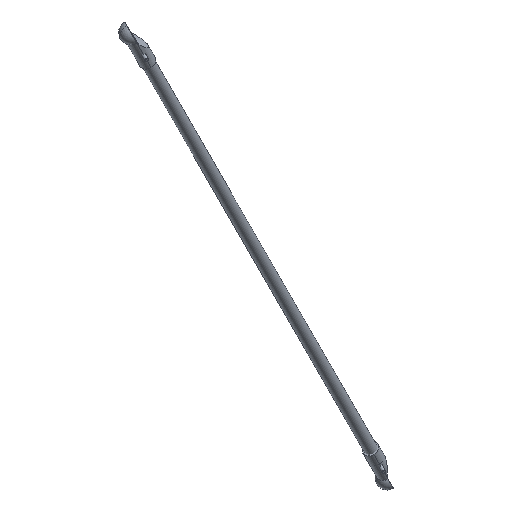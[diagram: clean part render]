
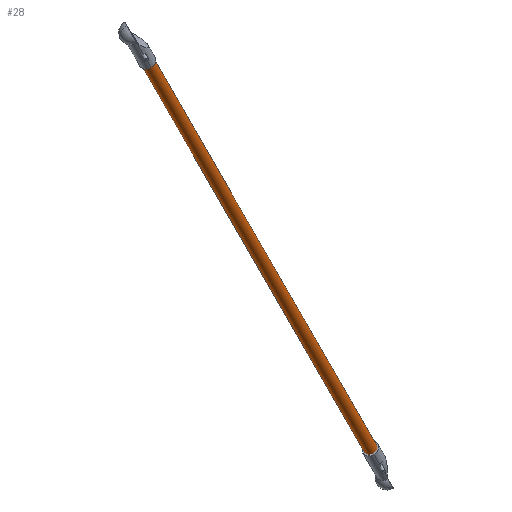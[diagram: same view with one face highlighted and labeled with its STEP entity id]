
A CAD part, top view. The second image highlights one B-rep face of the part: STEP entity #28.
In plain terms, the highlighted cylindrical face has radius 7 mm (diameter 14 mm), a partial arc.
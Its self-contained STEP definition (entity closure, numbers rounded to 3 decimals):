
#28 = ADVANCED_FACE ( 'NONE', ( #926 ), #1109, .T. ) ;
#35 = CARTESIAN_POINT ( 'NONE',  ( -83.207, 28.284, -869.565 ) ) ;
#64 = ORIENTED_EDGE ( 'NONE', *, *, #304, .T. ) ;
#142 = EDGE_CURVE ( 'NONE', #843, #447, #647, .T. ) ;
#172 = ORIENTED_EDGE ( 'NONE', *, *, #594, .F. ) ;
#173 = VERTEX_POINT ( 'NONE', #711 ) ;
#226 = EDGE_CURVE ( 'NONE', #173, #965, #904, .T. ) ;
#276 = CARTESIAN_POINT ( 'NONE',  ( -308.59, 432.5, -301.102 ) ) ;
#283 = DIRECTION ( 'NONE',  ( -0.866, -0.5, 0. ) ) ;
#298 = AXIS2_PLACEMENT_3D ( 'NONE', #276, #526, #866 ) ;
#303 = AXIS2_PLACEMENT_3D ( 'NONE', #338, #502, #1096 ) ;
#304 = EDGE_CURVE ( 'NONE', #173, #843, #1082, .T. ) ;
#313 = CARTESIAN_POINT ( 'NONE',  ( -71.083, 35.285, -869.564 ) ) ;
#338 = CARTESIAN_POINT ( 'NONE',  ( -77.145, 31.785, -869.565 ) ) ;
#354 = CARTESIAN_POINT ( 'NONE',  ( -77.145, 31.785, -869.565 ) ) ;
#373 = AXIS2_PLACEMENT_3D ( 'NONE', #354, #697, #283 ) ;
#388 = DIRECTION ( 'NONE',  ( -0.316, 0.547, 0.776 ) ) ;
#447 = VERTEX_POINT ( 'NONE', #1010 ) ;
#469 = VECTOR ( 'NONE', #1006, 1000. ) ;
#498 = CARTESIAN_POINT ( 'NONE',  ( -83.207, 28.284, -869.565 ) ) ;
#500 = ORIENTED_EDGE ( 'NONE', *, *, #226, .F. ) ;
#502 = DIRECTION ( 'NONE',  ( -0.316, 0.547, 0.776 ) ) ;
#526 = DIRECTION ( 'NONE',  ( 0.316, -0.547, -0.776 ) ) ;
#594 = EDGE_CURVE ( 'NONE', #965, #447, #894, .T. ) ;
#600 = ORIENTED_EDGE ( 'NONE', *, *, #142, .T. ) ;
#647 = CIRCLE ( 'NONE', #298, 7. ) ;
#697 = DIRECTION ( 'NONE',  ( 0.316, -0.547, -0.776 ) ) ;
#707 = EDGE_LOOP ( 'NONE', ( #172, #500, #64, #600 ) ) ;
#711 = CARTESIAN_POINT ( 'NONE',  ( -71.083, 35.285, -869.564 ) ) ;
#843 = VERTEX_POINT ( 'NONE', #977 ) ;
#866 = DIRECTION ( 'NONE',  ( -0.866, -0.5, 0. ) ) ;
#894 = LINE ( 'NONE', #35, #1090 ) ;
#904 = CIRCLE ( 'NONE', #373, 7. ) ;
#926 = FACE_OUTER_BOUND ( 'NONE', #707, .T. ) ;
#965 = VERTEX_POINT ( 'NONE', #498 ) ;
#977 = CARTESIAN_POINT ( 'NONE',  ( -302.528, 436.001, -301.102 ) ) ;
#1006 = DIRECTION ( 'NONE',  ( -0.316, 0.547, 0.776 ) ) ;
#1010 = CARTESIAN_POINT ( 'NONE',  ( -314.652, 429., -301.103 ) ) ;
#1082 = LINE ( 'NONE', #313, #469 ) ;
#1090 = VECTOR ( 'NONE', #388, 1000. ) ;
#1096 = DIRECTION ( 'NONE',  ( 0.866, 0.5, 0. ) ) ;
#1109 = CYLINDRICAL_SURFACE ( 'NONE', #303, 7. ) ;
